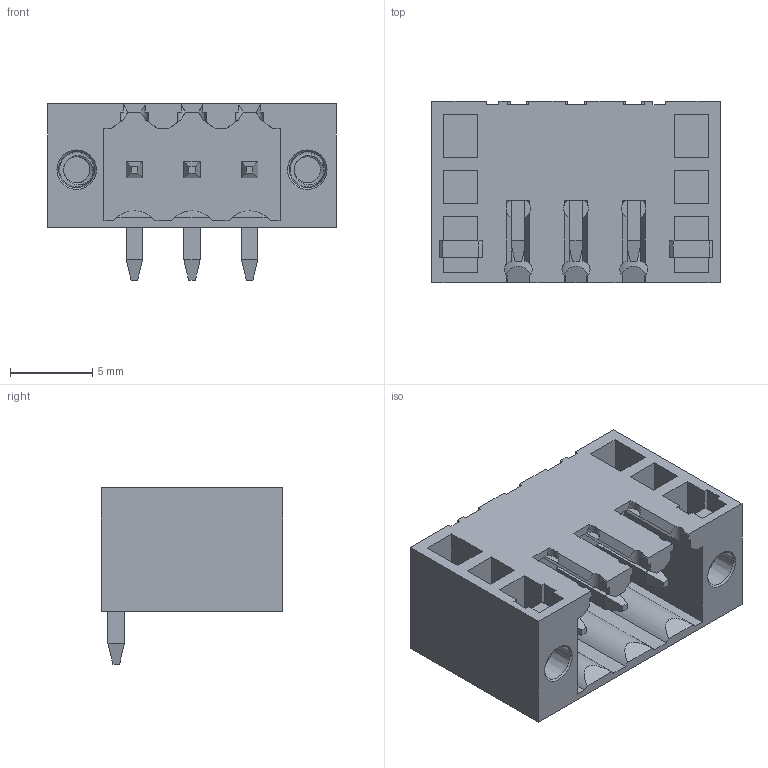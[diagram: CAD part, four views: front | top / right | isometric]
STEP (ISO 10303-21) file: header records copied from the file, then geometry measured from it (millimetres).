
FILE_DESCRIPTION((''),'2;1');
FILE_NAME('3PIN_SW0001','2019-05-27T',('zhenbing.lai'),(''),'CREO PARAMETRIC BY PTC INC, 2016260','CREO PARAMETRIC BY PTC INC, 2016260','');
FILE_SCHEMA(('CONFIG_CONTROL_DESIGN'));
Length unit declared in the file: millimetre
Products named in the file (1): 3PIN_SW0001
Bounding box: 17.5 x 11 x 10.7 mm (x, y, z)
Volume: 805.5 mm3; surface area: 1601.6 mm2
Topology: 1 solids, 1 shells, 331 faces, 917 edges, 598 vertices
Faces by surface type: plane 280, cylinder 31, cone 12, bspline 8
Entity records: 11930 total; most frequent: CARTESIAN_POINT 3540, ORIENTED_EDGE 1834, DIRECTION 1551, EDGE_CURVE 917, VECTOR 759, LINE 759, VERTEX_POINT 598, AXIS2_PLACEMENT_3D 396
